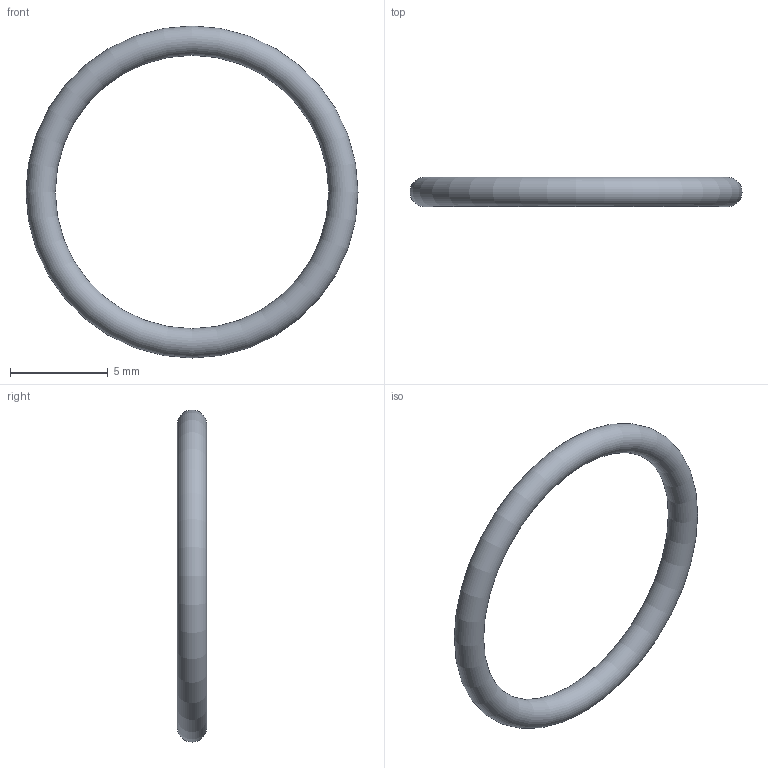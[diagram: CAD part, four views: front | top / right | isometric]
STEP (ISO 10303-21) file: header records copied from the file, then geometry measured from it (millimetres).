
FILE_DESCRIPTION( ( 'STEP AP203' ), '1' );
FILE_NAME( 'C:/Temp/Ganter_Step_05_03_2020/data/3_5/or638/O-Ring OR638-14.00-1.50-70.stp', '2020-03-12T13:44:18', ( 'License CC BY-ND 4.0' ), ( 'CADENAS' ), ' ', 'PARTsolutions', ' ' );
FILE_SCHEMA( ( 'CONFIG_CONTROL_DESIGN' ) );
Length unit declared in the file: millimetre
Products named in the file (1): _O-Ring OR638-14.00-1.50-70
Bounding box: 17 x 1.5 x 17 mm (x, y, z)
Volume: 86.1 mm3; surface area: 229.5 mm2
Topology: 1 solids, 1 shells, 1 faces, 2 edges, 1 vertices
Faces by surface type: torus 1
Entity records: 62 total; most frequent: CC_DESIGN_PERSON_AND_ORGANIZATION_ASSIGNMENT 5, PERSON_AND_ORGANIZATION_ROLE 4, DIRECTION 4, CARTESIAN_POINT 3, DATE_TIME_ROLE 2, CC_DESIGN_DATE_AND_TIME_ASSIGNMENT 2, AXIS2_PLACEMENT_3D 2, DIMENSIONAL_EXPONENTS 2
